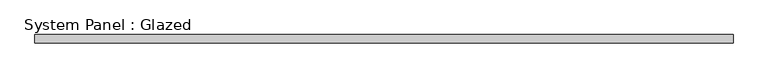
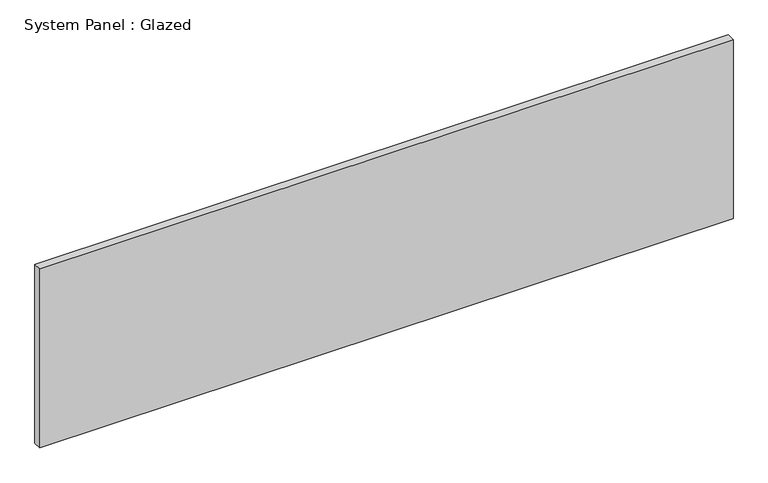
"""IFC4 building model written with IfcOpenShell, lengths in millimetres: plate geometry, System Panel : Glazed."""

from ifc_helpers import new_model, si_unit, origin, origin_with_axes, place, context, project, spatial, polyline, outline, extrude, source, transform, mapped, element, save


def system_panel_glazed_11a32600(model_context):
    return source(origin(), model_context, "Body", "SweptSolid", [
        extrude(outline(polyline([(1058.4447943, 19.05), (-1058.4447943, 19.05), (-1058.4447943, 44.45), (1058.4447943, 44.45), (1058.4447943, 19.05)])), origin_with_axes(), (0.0, 0.0, 1.0), 577.85),
    ])


if __name__ == "__main__":
    model = new_model("IFC4")
    model_context = context("Model", 3, world=origin())
    ifc_project = project(units=[si_unit("LENGTHUNIT", "METRE", prefix="MILLI")], contexts=[model_context])
    site = spatial("IfcSite", under=ifc_project)
    building = spatial("IfcBuilding", under=site)
    placement = place(None, origin())
    system_panel_glazed_shape = system_panel_glazed_11a32600(model_context)
    element("IfcPlate", 1, ObjectType="System Panel : Glazed", at=placement, inside=building, context=model_context, shape_type="MappedRepresentation", body=[
        mapped(system_panel_glazed_shape, transform((0.0, 0.0, 0.0), x_axis=(1.0, 0.0, 0.0), y_axis=(0.0, 1.0, 0.0), z_axis=(0.0, 0.0, 1.0))),
    ])
    save(model, "model.ifc")
